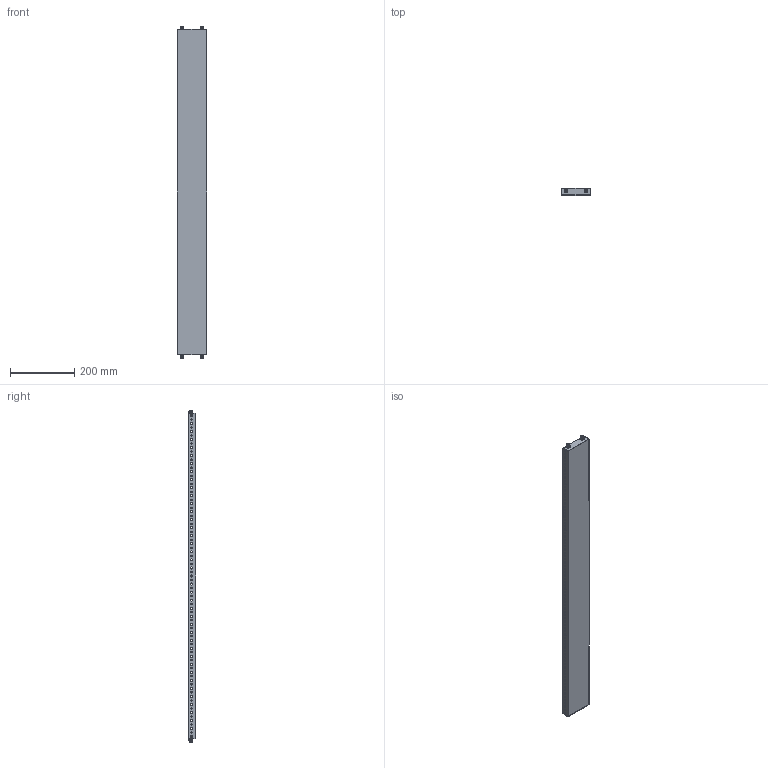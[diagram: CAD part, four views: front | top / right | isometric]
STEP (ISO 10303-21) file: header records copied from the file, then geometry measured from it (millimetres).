
FILE_DESCRIPTION(('Open CASCADE Model'),'2;1');
FILE_NAME('Open CASCADE Shape Model','2025-02-27T10:31:43',('Author'),( 'Open CASCADE'),'Open CASCADE STEP processor 7.8','Open CASCADE 7.8' ,'Unknown');
FILE_SCHEMA(('AUTOMOTIVE_DESIGN { 1 0 10303 214 1 1 1 1 }'));
Length unit declared in the file: millimetre
Products named in the file (5): Compound1; Solid1; Solid2; Solid3; Solid4
Assembly tree (13 placements, depth 2):
  Compound1
    Solid1
    Solid2  x4
    Solid3  x4
    Solid4  x4
Bounding box: 92.5 x 23 x 1034.2 mm (x, y, z)
Volume: 211397.4 mm3; surface area: 289398.4 mm2
Topology: 13 solids, 13 shells, 974 faces, 2768 edges, 1812 vertices
Faces by surface type: cylinder 580, plane 346, cone 32, torus 16
Entity records: 19156 total; most frequent: DIRECTION 3426, CARTESIAN_POINT 3408, ORIENTED_EDGE 3144, EDGE_CURVE 1572, AXIS2_PLACEMENT_3D 1353, VERTEX_POINT 1041, FACE_BOUND 879, EDGE_LOOP 879
